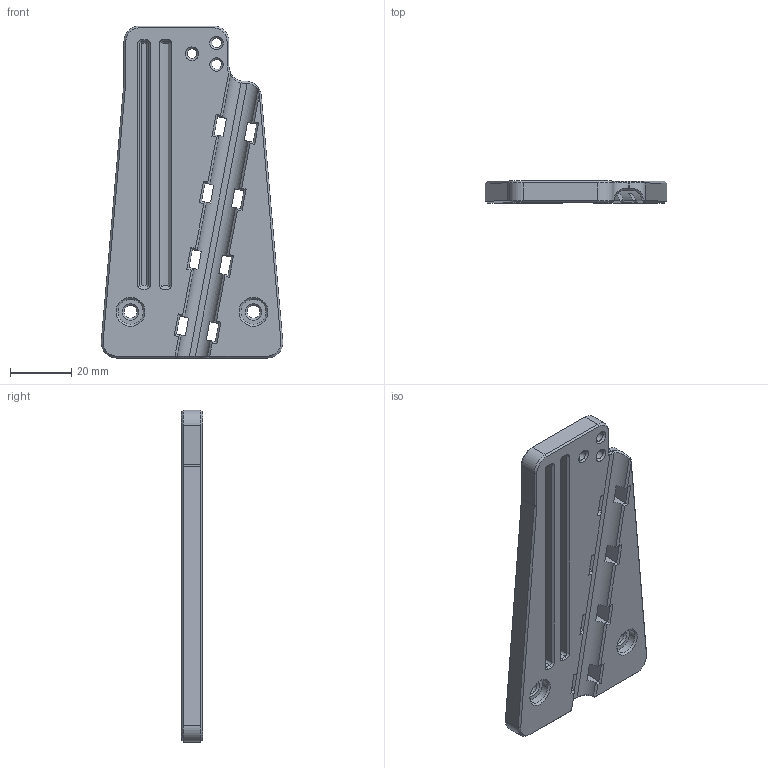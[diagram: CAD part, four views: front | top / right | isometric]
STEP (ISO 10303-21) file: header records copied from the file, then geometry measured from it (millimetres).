
FILE_DESCRIPTION(/* description */ (''),/* implementation_level */ '2;1');
FILE_NAME(/* name */ 'C:/Users/preto/Desktop/Back end.step',/* time_stamp */ '2020-12-07T10:08:58-05:00',/* author */ (''),/* organization */ (''),/* preprocessor_version */ 'ST-DEVELOPER v18.1',/* originating_system */ 'Autodesk Translation Framework v9.3.0.1241',/* authorisation */ '');
FILE_SCHEMA (('AUTOMOTIVE_DESIGN { 1 0 10303 214 3 1 1 }','MODEL_BASED_INTEGRATED_MANUFACTURING_SCHEMA','PROCESS_PLANNING_SCHEMA'));
Length unit declared in the file: millimetre
Products named in the file (1): Back end
Bounding box: 59.06 x 7 x 108 mm (x, y, z)
Volume: 29908.8 mm3; surface area: 14881.5 mm2
Topology: 1 solids, 1 shells, 233 faces, 569 edges, 334 vertices
Faces by surface type: plane 157, cone 44, cylinder 24, bspline 8
Full cylindrical faces by diameter (mm): 3.2 x3, 4.2 x2, 8.2 x2
Entity records: 6954 total; most frequent: CARTESIAN_POINT 1428, ORIENTED_EDGE 1138, DIRECTION 1123, EDGE_CURVE 569, LINE 425, VECTOR 425, AXIS2_PLACEMENT_3D 349, VERTEX_POINT 334
